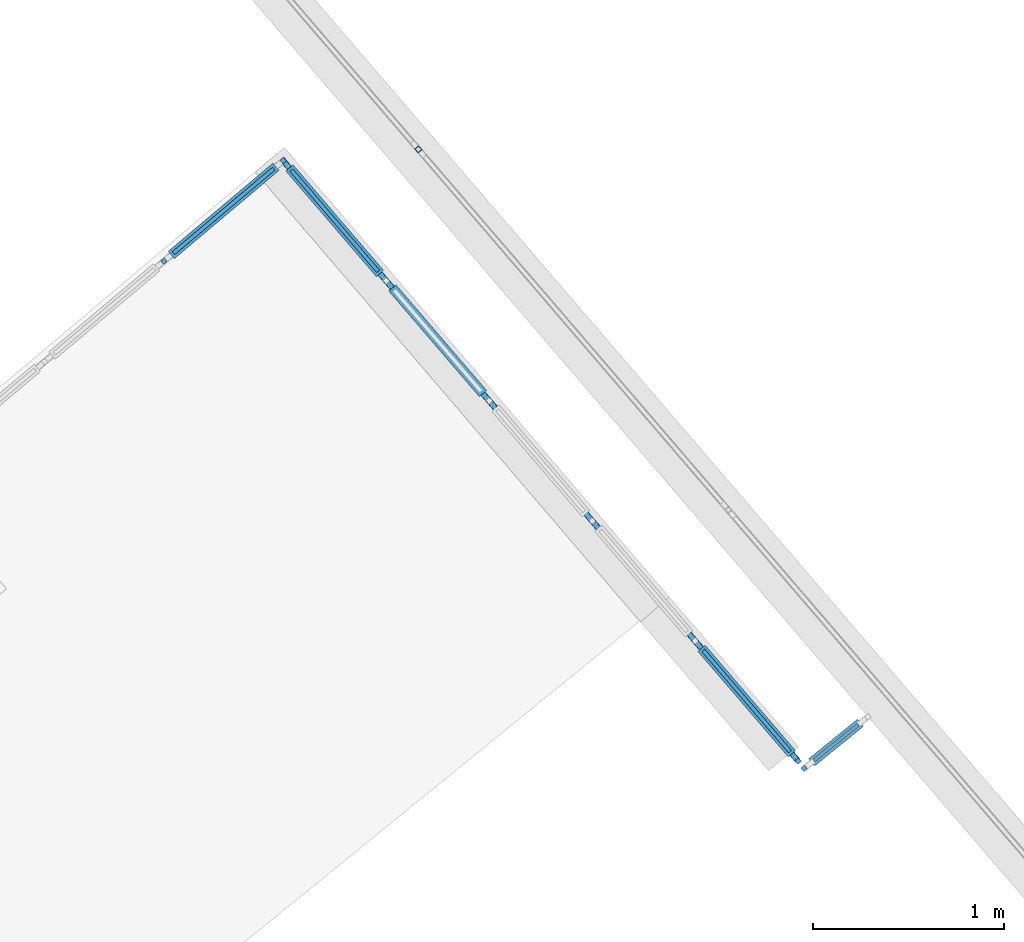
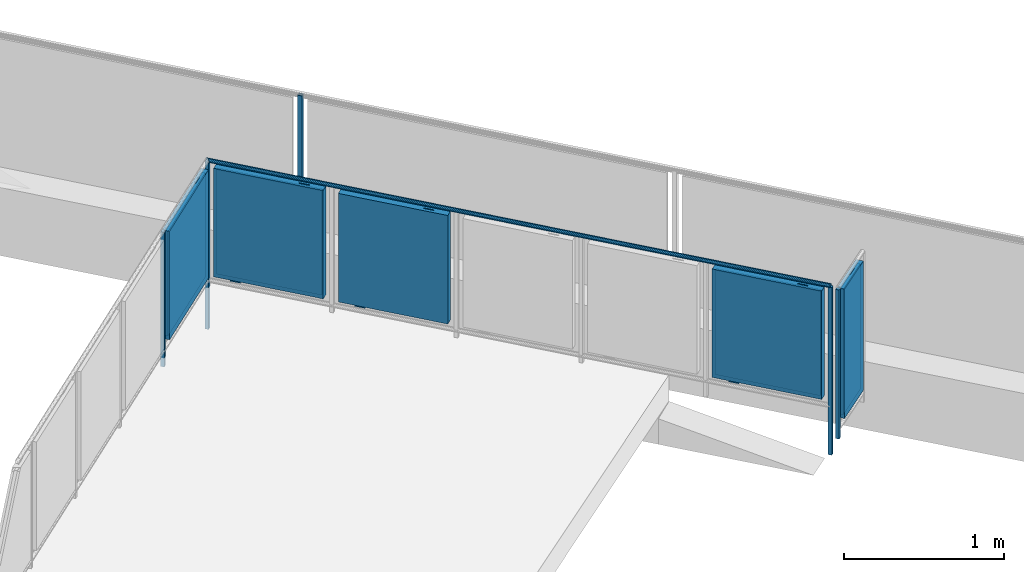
# One storey, part 50 of 75: 15 building element parts, 3 elements without a shape of their own.
"""IFC4 building model written with IfcOpenShell, lengths in metres."""

from ifc_helpers import new_model, entity, si_unit, converted_unit, derived_unit, direction, frame, origin_with_axes, place, context, subcontext, project, spatial, polygons, material, type_object, element, aggregate, save


model = new_model("IFC4")

# Units and contexts
model_context = context("Model", 3, precision=1e-05, world=origin_with_axes(), true_north=direction((0.0, 1.0)))
body_context = subcontext(model_context, "Body", "Model", "MODEL_VIEW")
ifc_project = project(units=[si_unit("LENGTHUNIT", "METRE"), si_unit("AREAUNIT", "SQUARE_METRE"), si_unit("VOLUMEUNIT", "CUBIC_METRE"), converted_unit("PLANEANGLEUNIT", "DEGREE", entity("IfcPlaneAngleMeasure", 0.0174532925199), si_unit("PLANEANGLEUNIT", "RADIAN"), dimensions=[0, 0, 0, 0, 0, 0, 0]), converted_unit("TIMEUNIT", "Year", entity("IfcTimeMeasure", 31556926.0), si_unit("TIMEUNIT", "SECOND"), dimensions=[0, 0, 1, 0, 0, 0, 0]), si_unit("MASSUNIT", "GRAM", prefix="KILO"), si_unit("THERMODYNAMICTEMPERATUREUNIT", "DEGREE_CELSIUS"), si_unit("LUMINOUSINTENSITYUNIT", "LUMEN"), si_unit("ENERGYUNIT", "JOULE", prefix="MEGA"), derived_unit("THERMALCONDUCTANCEUNIT", [(si_unit("POWERUNIT", "WATT"), 1), (si_unit("LENGTHUNIT", "METRE"), -1), (si_unit("THERMODYNAMICTEMPERATUREUNIT", "KELVIN"), -1)]), derived_unit("SPECIFICHEATCAPACITYUNIT", [(si_unit("ENERGYUNIT", "JOULE"), 1), (si_unit("MASSUNIT", "GRAM", prefix="KILO"), -1), (si_unit("THERMODYNAMICTEMPERATUREUNIT", "KELVIN"), -1)]), derived_unit("MASSDENSITYUNIT", [(si_unit("MASSUNIT", "GRAM", prefix="KILO"), 1), (si_unit("VOLUMEUNIT", "CUBIC_METRE"), -1)])], contexts=[model_context])

# Site, building, storey
site_placement = place(None, frame((-0.00153261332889, -0.00661245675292, 0.0), z_axis=(0.0, 0.0, 1.0), x_axis=(1.0, 0.0, 0.0)))
site = spatial("IfcSite", under=ifc_project, at=site_placement, Name="Gelände", CompositionType="ELEMENT")
building_placement = place(site_placement, origin_with_axes())
building = spatial("IfcBuilding", under=site, at=building_placement, Name="Gebäude", CompositionType="ELEMENT")
storey_placement = place(building_placement, frame((0.0, 0.0, -0.22), z_axis=(0.0, 0.0, 1.0), x_axis=(1.0, 0.0, 0.0)))
storey = spatial("IfcBuildingStorey", under=building, at=storey_placement, Name="EG", CompositionType="ELEMENT", Elevation=-0.22)

# Railing, building element part
railing_type = type_object("IfcRailingType", Name="Geländerart", PredefinedType="NOTDEFINED")
railing_1_placement = place(storey_placement, frame((-12.1608341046, 23.557810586, 0.523948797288), z_axis=(0.0, 0.0, 1.0), x_axis=(1.0, 0.0, 0.0)))
railing_1 = element("IfcRailing", 1, at=railing_1_placement, inside=storey, type_object=railing_type, Name="Geländer - 001", PredefinedType="NOTDEFINED")
ifc_material_1 = material(Name="Aluminium")
building_element_part_1_placement = place(railing_1_placement, origin_with_axes())
building_element_part_1 = element("IfcBuildingElementPart", 2, at=building_element_part_1_placement, material=ifc_material_1, Name="Aluminium", PredefinedType="NOTDEFINED", context=body_context, shape_type="Tessellation", body=[
    polygons([(28.8053132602, 0.231914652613, 0.0), (28.782559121, 0.212363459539, 0.0), (28.782559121, 0.212363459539, 1.06), (28.8053132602, 0.231914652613, 1.06), (28.8248644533, 0.209160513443, 0.0), (28.8021103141, 0.189609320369, 0.0), (28.8047794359, 0.224863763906, 0.0), (28.7896100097, 0.21182963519, 0.0), (28.8026441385, 0.196660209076, 0.0), (28.8178135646, 0.209694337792, 0.0), (28.8021103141, 0.189609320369, 1.06), (28.8248644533, 0.209160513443, 1.06), (28.8047794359, 0.224863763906, 1.06), (28.8178135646, 0.209694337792, 1.06), (28.8026441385, 0.196660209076, 1.06), (28.7896100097, 0.21182963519, 1.06)], [[[1, 2, 3, 4]], [[1, 5, 6, 2], [7, 8, 9, 10]], [[2, 6, 11, 3]], [[4, 3, 11, 12], [13, 14, 15, 16]], [[5, 1, 4, 12]], [[6, 5, 12, 11]], [[8, 7, 13, 16]], [[9, 8, 16, 15]], [[10, 9, 15, 14]], [[7, 10, 14, 13]]], closed=True),
])
aggregate(railing_1, [building_element_part_1])

# Space
space_placement = place(storey_placement, frame((13.4528825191, 20.3252443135, 0.0), z_axis=(0.0, 0.0, 1.0), x_axis=(-0.766923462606, -0.641738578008, 0.0)))
space = spatial("IfcSpace", under=storey, at=space_placement, CompositionType="ELEMENT", PredefinedType="NOTDEFINED")

# Railing, building element parts
railing_2_placement = place(space_placement, frame((0.00343914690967, -1.03835442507, 0.38), z_axis=(0.0, 0.0, 1.0), x_axis=(-0.766923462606, 0.641738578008, 0.0)))
railing_2 = element("IfcRailing", 3, at=railing_2_placement, inside=space, type_object=railing_type, Name="Geländer - 001", PredefinedType="NOTDEFINED")
building_element_part_2_placement = place(railing_2_placement, origin_with_axes())
building_element_part_2 = element("IfcBuildingElementPart", 4, at=building_element_part_2_placement, material=ifc_material_1, Name="Aluminium", PredefinedType="NOTDEFINED", context=body_context, shape_type="Tessellation", body=[
    polygons([(3.16945391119, 2.58828020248, -0.3), (3.15334703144, 2.60740004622, -0.3), (3.15334703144, 2.60740004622, 0.98), (3.16945391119, 2.58828020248, 0.98), (3.15033406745, 2.57217332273, -0.3), (3.1342271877, 2.59129316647, -0.3), (3.1342271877, 2.59129316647, 0.98), (3.15033406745, 2.57217332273, 0.98)], [[[1, 2, 3, 4]], [[1, 5, 6, 2]], [[2, 6, 7, 3]], [[4, 3, 7, 8]], [[5, 1, 4, 8]], [[6, 5, 8, 7]]], closed=True),
])
building_element_part_3_placement = place(railing_2_placement, origin_with_axes())
building_element_part_3 = element("IfcBuildingElementPart", 5, at=building_element_part_3_placement, material=ifc_material_1, Name="Aluminium", PredefinedType="NOTDEFINED", context=body_context, shape_type="Tessellation", body=[
    polygons([(5.84400037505, -0.568070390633, -0.3), (5.86297616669, -0.551794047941, -0.3), (5.86297616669, -0.551794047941, 0.98), (5.84400037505, -0.568070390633, 0.98), (5.82772403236, -0.549094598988, -0.3), (5.846699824, -0.532818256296, -0.3), (5.846699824, -0.532818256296, 0.98), (5.82772403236, -0.549094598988, 0.98)], [[[1, 2, 3, 4]], [[1, 5, 6, 2]], [[2, 6, 7, 3]], [[4, 3, 7, 8]], [[5, 1, 4, 8]], [[6, 5, 8, 7]]], closed=True),
])
building_element_part_4_placement = place(railing_2_placement, origin_with_axes())
building_element_part_4 = element("IfcBuildingElementPart", 6, at=building_element_part_4_placement, material=ifc_material_1, Name="Aluminium", PredefinedType="NOTDEFINED", context=body_context, shape_type="Tessellation", body=[
    polygons([(2.5455285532, 2.06267492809, -0.05), (2.52942167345, 2.08179477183, -0.05), (2.52942167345, 2.08179477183, 0.98), (2.5455285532, 2.06267492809, 0.98), (2.52640870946, 2.04656804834, -0.05), (2.51030182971, 2.06568789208, -0.05), (2.51030182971, 2.06568789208, 0.98), (2.52640870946, 2.04656804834, 0.98)], [[[1, 2, 3, 4]], [[1, 5, 6, 2]], [[2, 6, 7, 3]], [[4, 3, 7, 8]], [[5, 1, 4, 8]], [[6, 5, 8, 7]]], closed=True),
])
ifc_material_2 = material(Name="Profilit")
building_element_part_5_placement = place(railing_2_placement, origin_with_axes())
building_element_part_5 = element("IfcBuildingElementPart", 7, at=building_element_part_5_placement, material=ifc_material_2, Name="Profilit", PredefinedType="NOTDEFINED", context=body_context, shape_type="Tessellation", body=[
    polygons([(3.09568620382, 2.55555673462, 0.135), (2.57118403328, 2.11370723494, 0.135), (2.57118403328, 2.11370723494, 0.935), (3.09568620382, 2.55555673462, 0.935), (2.58406953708, 2.09841135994, 0.135), (3.10857170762, 2.54026085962, 0.135), (2.58406953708, 2.09841135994, 0.935), (3.10857170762, 2.54026085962, 0.935)], [[[1, 2, 3, 4]], [[5, 2, 1, 6]], [[7, 3, 2, 5]], [[4, 3, 7, 8]], [[1, 4, 8, 6]], [[7, 5, 6, 8]]], closed=True),
])
building_element_part_6_placement = place(railing_2_placement, origin_with_axes())
building_element_part_6 = element("IfcBuildingElementPart", 8, at=building_element_part_6_placement, material=ifc_material_1, Name="Aluminium", PredefinedType="NOTDEFINED", context=body_context, shape_type="Tessellation", body=[
    polygons([(2.64102356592, 2.16273467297, 0.12), (2.69455912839, 2.20783393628, 0.12), (2.69455912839, 2.20783393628, 0.095), (2.64102356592, 2.16273467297, 0.095), (2.64424494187, 2.15891070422, 0.12), (2.69778050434, 2.20400996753, 0.12), (2.69778050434, 2.20400996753, 0.095), (2.64424494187, 2.15891070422, 0.095)], [[[1, 2, 3, 4]], [[5, 6, 2, 1]], [[2, 6, 7, 3]], [[4, 3, 7, 8]], [[1, 4, 8, 5]], [[8, 7, 6, 5]]], closed=True),
    polygons([(3.03551079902, 2.49505739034, 0.95), (2.98197523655, 2.44995812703, 0.95), (2.98197523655, 2.44995812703, 0.955), (3.03551079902, 2.49505739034, 0.955), (3.03873217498, 2.49123342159, 0.95), (2.9851966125, 2.44613415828, 0.95), (2.9851966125, 2.44613415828, 0.955), (3.03873217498, 2.49123342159, 0.955)], [[[1, 2, 3, 4]], [[5, 6, 2, 1]], [[2, 6, 7, 3]], [[4, 3, 7, 8]], [[1, 4, 8, 5]], [[8, 7, 6, 5]]], closed=True),
    polygons([(2.58226175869, 2.07727532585, 0.12), (2.55004799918, 2.11551501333, 0.12), (3.09749398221, 2.57669276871, 0.12), (3.12970774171, 2.53845308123, 0.12), (2.59755763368, 2.09016082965, 0.14), (2.58789350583, 2.10163273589, 0.14), (2.58406953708, 2.09841135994, 0.135), (2.57118403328, 2.11370723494, 0.135), (2.57500800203, 2.11692861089, 0.14), (2.56534387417, 2.12840051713, 0.14), (3.08219810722, 2.56380726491, 0.14), (3.08219810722, 2.56380726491, 0.93), (2.56534387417, 2.12840051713, 0.93), (2.56534387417, 2.12840051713, 0.14), (2.55004799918, 2.11551501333, 0.12), (2.55004799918, 2.11551501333, 0.95), (3.09749398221, 2.57669276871, 0.95), (3.12970774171, 2.53845308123, 0.95), (2.58226175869, 2.07727532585, 0.95), (2.58226175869, 2.07727532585, 0.12), (2.59755763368, 2.09016082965, 0.14), (2.59755763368, 2.09016082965, 0.93), (3.11441186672, 2.52556757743, 0.93), (3.11441186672, 2.52556757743, 0.14), (3.10474773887, 2.53703948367, 0.14), (3.10474773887, 2.53703948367, 0.93), (2.58789350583, 2.10163273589, 0.93), (2.58789350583, 2.10163273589, 0.14), (2.58406953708, 2.09841135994, 0.135), (2.58406953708, 2.09841135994, 0.935), (3.10857170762, 2.54026085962, 0.935), (3.10857170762, 2.54026085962, 0.135), (3.09568620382, 2.55555673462, 0.135), (3.09568620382, 2.55555673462, 0.935), (2.57118403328, 2.11370723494, 0.935), (2.57118403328, 2.11370723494, 0.135), (2.57500800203, 2.11692861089, 0.14), (2.57500800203, 2.11692861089, 0.93), (3.09186223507, 2.55233535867, 0.93), (3.09186223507, 2.55233535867, 0.14)], [[[1, 2, 3, 4]], [[1, 5, 6, 7, 8, 9, 10, 2]], [[2, 10, 11, 12, 13, 14, 15, 16, 17, 3]], [[4, 3, 17, 18]], [[5, 1, 4, 18, 19, 20, 21, 22, 23, 24]], [[6, 5, 24, 25]], [[7, 6, 25, 26, 27, 28, 29, 30, 31, 32]], [[8, 7, 32, 33]], [[9, 8, 33, 34, 35, 36, 37, 38, 39, 40]], [[10, 9, 40, 11]], [[11, 40, 39, 12]], [[12, 39, 38, 13]], [[13, 38, 37, 14]], [[20, 15, 14, 37, 36, 29, 28, 21]], [[19, 16, 15, 20]], [[18, 17, 16, 19]], [[27, 22, 21, 28]], [[26, 23, 22, 27]], [[25, 24, 23, 26]], [[35, 30, 29, 36]], [[34, 31, 30, 35]], [[33, 32, 31, 34]]], closed=True),
])
building_element_part_7_placement = place(railing_2_placement, origin_with_axes())
building_element_part_7 = element("IfcBuildingElementPart", 9, at=building_element_part_7_placement, material=ifc_material_1, Name="Aluminium", PredefinedType="NOTDEFINED", context=body_context, shape_type="Tessellation", body=[
    polygons([(3.15354671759, 2.61083712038, 0.985), (3.15352079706, 2.61051731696, 0.987604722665), (5.85656260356, -0.54082688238, 0.987604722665), (5.85673557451, -0.54067851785, 0.985), (3.15352079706, 2.61051731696, 0.982395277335), (3.15344382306, 2.60956762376, 0.97986969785), (3.1533181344, 2.60801689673, 0.9775), (3.15314755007, 2.60591225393, 0.975358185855), (3.15293725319, 2.60331764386, 0.973509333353), (3.15269363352, 2.60031190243, 0.972009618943), (3.15242409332, 2.59698635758, 0.970904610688), (3.15213682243, 2.59344205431, 0.970227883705), (3.15184054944, 2.58978668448, 0.97), (3.15154427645, 2.58613131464, 0.970227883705), (3.15125700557, 2.58258701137, 0.970904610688), (3.15098746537, 2.57926146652, 0.972009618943), (3.15074384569, 2.57625572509, 0.973509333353), (3.15053354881, 2.57366111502, 0.975358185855), (3.15036296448, 2.57155647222, 0.9775), (3.15023727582, 2.57000574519, 0.97986969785), (3.15016030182, 2.56905605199, 0.982395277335), (3.15013438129, 2.56873624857, 0.985), (3.15016030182, 2.56905605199, 0.987604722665), (3.15023727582, 2.57000574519, 0.99013030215), (3.15036296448, 2.57155647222, 0.9925), (3.15053354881, 2.57366111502, 0.994641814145), (3.15074384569, 2.57625572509, 0.996490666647), (3.15098746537, 2.57926146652, 0.997990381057), (3.15125700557, 2.58258701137, 0.999095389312), (3.15154427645, 2.58613131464, 0.999772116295), (3.15184054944, 2.58978668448, 1.0), (3.15213682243, 2.59344205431, 0.999772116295), (3.15242409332, 2.59698635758, 0.999095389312), (3.15269363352, 2.60031190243, 0.997990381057), (3.15293725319, 2.60331764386, 0.996490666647), (3.15314755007, 2.60591225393, 0.994641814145), (3.1533181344, 2.60801689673, 0.9925), (3.15344382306, 2.60956762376, 0.99013030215), (5.85604894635, -0.541267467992, 0.99013030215), (5.8552102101, -0.541986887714, 0.9925), (5.85407187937, -0.542963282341, 0.994641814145), (5.85266854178, -0.544166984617, 0.996490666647), (5.85104283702, -0.545561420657, 0.997990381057), (5.84924416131, -0.547104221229, 0.999095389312), (5.84732716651, -0.548748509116, 0.999772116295), (5.84535009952, -0.550444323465, 1.0), (5.84337303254, -0.552140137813, 0.999772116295), (5.84145603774, -0.553784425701, 0.999095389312), (5.83965736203, -0.555327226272, 0.997990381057), (5.83803165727, -0.556721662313, 0.996490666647), (5.83662831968, -0.557925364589, 0.994641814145), (5.83548998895, -0.558901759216, 0.9925), (5.83465125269, -0.559621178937, 0.99013030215), (5.83413759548, -0.560061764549, 0.987604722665), (5.83396462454, -0.56021012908, 0.985), (5.83413759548, -0.560061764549, 0.982395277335), (5.83465125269, -0.559621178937, 0.97986969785), (5.83548998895, -0.558901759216, 0.9775), (5.83662831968, -0.557925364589, 0.975358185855), (5.83803165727, -0.556721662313, 0.973509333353), (5.83965736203, -0.555327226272, 0.972009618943), (5.84145603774, -0.553784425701, 0.970904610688), (5.84337303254, -0.552140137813, 0.970227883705), (5.84535009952, -0.550444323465, 0.97), (5.84732716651, -0.548748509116, 0.970227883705), (5.84924416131, -0.547104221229, 0.970904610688), (5.85104283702, -0.545561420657, 0.972009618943), (5.85266854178, -0.544166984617, 0.973509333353), (5.85407187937, -0.542963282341, 0.975358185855), (5.8552102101, -0.541986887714, 0.9775), (5.85604894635, -0.541267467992, 0.97986969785), (5.85656260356, -0.54082688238, 0.982395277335)], [[[1, 2, 3, 4]], [[1, 5, 6, 7, 8, 9, 10, 11, 12, 13, 14, 15, 16, 17, 18, 19, 20, 21, 22, 23, 24, 25, 26, 27, 28, 29, 30, 31, 32, 33, 34, 35, 36, 37, 38, 2]], [[2, 38, 39, 3]], [[4, 3, 39, 40, 41, 42, 43, 44, 45, 46, 47, 48, 49, 50, 51, 52, 53, 54, 55, 56, 57, 58, 59, 60, 61, 62, 63, 64, 65, 66, 67, 68, 69, 70, 71, 72]], [[5, 1, 4, 72]], [[6, 5, 72, 71]], [[7, 6, 71, 70]], [[8, 7, 70, 69]], [[9, 8, 69, 68]], [[10, 9, 68, 67]], [[11, 10, 67, 66]], [[12, 11, 66, 65]], [[13, 12, 65, 64]], [[14, 13, 64, 63]], [[15, 14, 63, 62]], [[16, 15, 62, 61]], [[17, 16, 61, 60]], [[18, 17, 60, 59]], [[19, 18, 59, 58]], [[20, 19, 58, 57]], [[21, 20, 57, 56]], [[22, 21, 56, 55]], [[23, 22, 55, 54]], [[24, 23, 54, 53]], [[25, 24, 53, 52]], [[26, 25, 52, 51]], [[27, 26, 51, 50]], [[28, 27, 50, 49]], [[29, 28, 49, 48]], [[30, 29, 48, 47]], [[31, 30, 47, 46]], [[32, 31, 46, 45]], [[33, 32, 45, 44]], [[34, 33, 44, 43]], [[35, 34, 43, 42]], [[36, 35, 42, 41]], [[37, 36, 41, 40]], [[38, 37, 40, 39]]], closed=True),
])
building_element_part_8_placement = place(railing_2_placement, origin_with_axes())
building_element_part_8 = element("IfcBuildingElementPart", 10, at=building_element_part_8_placement, material=ifc_material_2, Name="Profilit", PredefinedType="NOTDEFINED", context=body_context, shape_type="Tessellation", body=[
    polygons([(3.65581428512, 2.01758807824, 0.135), (3.2017493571, 2.54696016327, 0.135), (3.2017493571, 2.54696016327, 0.935), (3.65581428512, 2.01758807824, 0.935), (3.18656872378, 2.53393908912, 0.135), (3.6406336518, 2.00456700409, 0.135), (3.18656872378, 2.53393908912, 0.935), (3.6406336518, 2.00456700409, 0.935)], [[[1, 2, 3, 4]], [[5, 2, 1, 6]], [[7, 3, 2, 5]], [[4, 3, 7, 8]], [[1, 4, 8, 6]], [[7, 5, 6, 8]]], closed=True),
])
building_element_part_9_placement = place(railing_2_placement, origin_with_axes())
building_element_part_9 = element("IfcBuildingElementPart", 11, at=building_element_part_9_placement, material=ifc_material_1, Name="Aluminium", PredefinedType="NOTDEFINED", context=body_context, shape_type="Tessellation", body=[
    polygons([(3.25139618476, 2.47755956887, 0.12), (3.2969699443, 2.42442735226, 0.12), (3.2969699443, 2.42442735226, 0.095), (3.25139618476, 2.47755956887, 0.095), (3.24760102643, 2.47430430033, 0.12), (3.29317478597, 2.42117208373, 0.12), (3.29317478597, 2.42117208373, 0.095), (3.24760102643, 2.47430430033, 0.095)], [[[1, 2, 3, 4]], [[5, 6, 2, 1]], [[2, 6, 7, 3]], [[4, 3, 7, 8]], [[1, 4, 8, 5]], [[8, 7, 6, 5]]], closed=True),
    polygons([(3.59478198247, 2.07722286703, 0.95), (3.54920822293, 2.13035508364, 0.95), (3.54920822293, 2.13035508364, 0.955), (3.59478198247, 2.07722286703, 0.955), (3.59098682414, 2.07396759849, 0.95), (3.5454130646, 2.1270998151, 0.95), (3.5454130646, 2.1270998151, 0.955), (3.59098682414, 2.07396759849, 0.955)], [[[1, 2, 3, 4]], [[5, 6, 2, 1]], [[2, 6, 7, 3]], [[4, 3, 7, 8]], [[1, 4, 8, 5]], [[8, 7, 6, 5]]], closed=True),
    polygons([(3.16541744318, 2.53555875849, 0.12), (3.20336902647, 2.56811144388, 0.12), (3.67696556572, 2.01596840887, 0.12), (3.63901398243, 1.98341572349, 0.12), (3.17843851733, 2.52037812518, 0.14), (3.18982399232, 2.53014393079, 0.14), (3.18656872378, 2.53393908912, 0.135), (3.2017493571, 2.54696016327, 0.135), (3.20500462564, 2.54316500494, 0.14), (3.21639010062, 2.55293081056, 0.14), (3.66394449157, 2.03114904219, 0.14), (3.66394449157, 2.03114904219, 0.93), (3.21639010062, 2.55293081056, 0.93), (3.21639010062, 2.55293081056, 0.14), (3.20336902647, 2.56811144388, 0.12), (3.20336902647, 2.56811144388, 0.95), (3.67696556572, 2.01596840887, 0.95), (3.63901398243, 1.98341572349, 0.95), (3.16541744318, 2.53555875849, 0.95), (3.16541744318, 2.53555875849, 0.12), (3.17843851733, 2.52037812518, 0.14), (3.17843851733, 2.52037812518, 0.93), (3.62599290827, 1.9985963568, 0.93), (3.62599290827, 1.9985963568, 0.14), (3.63737838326, 2.00836216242, 0.14), (3.63737838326, 2.00836216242, 0.93), (3.18982399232, 2.53014393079, 0.93), (3.18982399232, 2.53014393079, 0.14), (3.18656872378, 2.53393908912, 0.135), (3.18656872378, 2.53393908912, 0.935), (3.6406336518, 2.00456700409, 0.935), (3.6406336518, 2.00456700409, 0.135), (3.65581428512, 2.01758807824, 0.135), (3.65581428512, 2.01758807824, 0.935), (3.2017493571, 2.54696016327, 0.935), (3.2017493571, 2.54696016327, 0.135), (3.20500462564, 2.54316500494, 0.14), (3.20500462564, 2.54316500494, 0.93), (3.65255901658, 2.02138323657, 0.93), (3.65255901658, 2.02138323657, 0.14)], [[[1, 2, 3, 4]], [[1, 5, 6, 7, 8, 9, 10, 2]], [[2, 10, 11, 12, 13, 14, 15, 16, 17, 3]], [[4, 3, 17, 18]], [[5, 1, 4, 18, 19, 20, 21, 22, 23, 24]], [[6, 5, 24, 25]], [[7, 6, 25, 26, 27, 28, 29, 30, 31, 32]], [[8, 7, 32, 33]], [[9, 8, 33, 34, 35, 36, 37, 38, 39, 40]], [[10, 9, 40, 11]], [[11, 40, 39, 12]], [[12, 39, 38, 13]], [[13, 38, 37, 14]], [[20, 15, 14, 37, 36, 29, 28, 21]], [[19, 16, 15, 20]], [[18, 17, 16, 19]], [[27, 22, 21, 28]], [[26, 23, 22, 27]], [[25, 24, 23, 26]], [[35, 30, 29, 36]], [[34, 31, 30, 35]], [[33, 32, 31, 34]]], closed=True),
])
building_element_part_10_placement = place(railing_2_placement, origin_with_axes())
building_element_part_10 = element("IfcBuildingElementPart", 12, at=building_element_part_10_placement, material=ifc_material_1, Name="Aluminium", PredefinedType="NOTDEFINED", context=body_context, shape_type="Tessellation", body=[
    polygons([(3.79009809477, 1.84951336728, 0.12), (3.83567185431, 1.79638115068, 0.12), (3.83567185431, 1.79638115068, 0.095), (3.79009809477, 1.84951336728, 0.095), (3.78630293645, 1.84625809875, 0.12), (3.83187669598, 1.79312588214, 0.12), (3.83187669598, 1.79312588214, 0.095), (3.78630293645, 1.84625809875, 0.095)], [[[1, 2, 3, 4]], [[5, 6, 2, 1]], [[2, 6, 7, 3]], [[4, 3, 7, 8]], [[1, 4, 8, 5]], [[8, 7, 6, 5]]], closed=True),
    polygons([(4.13348389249, 1.44917666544, 0.95), (4.08791013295, 1.50230888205, 0.95), (4.08791013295, 1.50230888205, 0.955), (4.13348389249, 1.44917666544, 0.955), (4.12968873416, 1.4459213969, 0.95), (4.08411497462, 1.49905361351, 0.95), (4.08411497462, 1.49905361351, 0.955), (4.12968873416, 1.4459213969, 0.955)], [[[1, 2, 3, 4]], [[5, 6, 2, 1]], [[2, 6, 7, 3]], [[4, 3, 7, 8]], [[1, 4, 8, 5]], [[8, 7, 6, 5]]], closed=True),
    polygons([(3.7041193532, 1.9075125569, 0.12), (3.74207093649, 1.94006524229, 0.12), (4.21566747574, 1.38792220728, 0.12), (4.17771589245, 1.3553695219, 0.12), (3.71714042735, 1.89233192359, 0.14), (3.72852590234, 1.9020977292, 0.14), (3.7252706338, 1.90589288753, 0.135), (3.74045126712, 1.91891396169, 0.135), (3.74370653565, 1.91511880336, 0.14), (3.75509201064, 1.92488460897, 0.14), (4.20264640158, 1.4031028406, 0.14), (4.20264640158, 1.4031028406, 0.93), (3.75509201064, 1.92488460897, 0.93), (3.75509201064, 1.92488460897, 0.14), (3.74207093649, 1.94006524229, 0.12), (3.74207093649, 1.94006524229, 0.95), (4.21566747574, 1.38792220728, 0.95), (4.17771589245, 1.3553695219, 0.95), (3.7041193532, 1.9075125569, 0.95), (3.7041193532, 1.9075125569, 0.12), (3.71714042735, 1.89233192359, 0.14), (3.71714042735, 1.89233192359, 0.93), (4.16469481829, 1.37055015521, 0.93), (4.16469481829, 1.37055015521, 0.14), (4.17608029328, 1.38031596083, 0.14), (4.17608029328, 1.38031596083, 0.93), (3.72852590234, 1.9020977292, 0.93), (3.72852590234, 1.9020977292, 0.14), (3.7252706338, 1.90589288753, 0.135), (3.7252706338, 1.90589288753, 0.935), (4.17933556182, 1.3765208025, 0.935), (4.17933556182, 1.3765208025, 0.135), (4.19451619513, 1.38954187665, 0.135), (4.19451619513, 1.38954187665, 0.935), (3.74045126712, 1.91891396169, 0.935), (3.74045126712, 1.91891396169, 0.135), (3.74370653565, 1.91511880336, 0.14), (3.74370653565, 1.91511880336, 0.93), (4.1912609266, 1.39333703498, 0.93), (4.1912609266, 1.39333703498, 0.14)], [[[1, 2, 3, 4]], [[1, 5, 6, 7, 8, 9, 10, 2]], [[2, 10, 11, 12, 13, 14, 15, 16, 17, 3]], [[4, 3, 17, 18]], [[5, 1, 4, 18, 19, 20, 21, 22, 23, 24]], [[6, 5, 24, 25]], [[7, 6, 25, 26, 27, 28, 29, 30, 31, 32]], [[8, 7, 32, 33]], [[9, 8, 33, 34, 35, 36, 37, 38, 39, 40]], [[10, 9, 40, 11]], [[11, 40, 39, 12]], [[12, 39, 38, 13]], [[13, 38, 37, 14]], [[20, 15, 14, 37, 36, 29, 28, 21]], [[19, 16, 15, 20]], [[18, 17, 16, 19]], [[27, 22, 21, 28]], [[26, 23, 22, 27]], [[25, 24, 23, 26]], [[35, 30, 29, 36]], [[34, 31, 30, 35]], [[33, 32, 31, 34]]], closed=True),
])
building_element_part_11_placement = place(railing_2_placement, origin_with_axes())
building_element_part_11 = element("IfcBuildingElementPart", 13, at=building_element_part_11_placement, material=ifc_material_2, Name="Profilit", PredefinedType="NOTDEFINED", context=body_context, shape_type="Tessellation", body=[
    polygons([(5.81062192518, -0.49459672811, 0.135), (5.35655699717, 0.0347753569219, 0.135), (5.35655699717, 0.0347753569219, 0.935), (5.81062192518, -0.49459672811, 0.935), (5.34137636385, 0.0217542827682, 0.135), (5.79544129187, -0.507617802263, 0.135), (5.34137636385, 0.0217542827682, 0.935), (5.79544129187, -0.507617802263, 0.935)], [[[1, 2, 3, 4]], [[5, 2, 1, 6]], [[7, 3, 2, 5]], [[4, 3, 7, 8]], [[1, 4, 8, 6]], [[7, 5, 6, 8]]], closed=True),
])
building_element_part_12_placement = place(railing_2_placement, origin_with_axes())
building_element_part_12 = element("IfcBuildingElementPart", 14, at=building_element_part_12_placement, material=ifc_material_1, Name="Aluminium", PredefinedType="NOTDEFINED", context=body_context, shape_type="Tessellation", body=[
    polygons([(5.40620382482, -0.0346252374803, 0.12), (5.45177758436, -0.0877574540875, 0.12), (5.45177758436, -0.0877574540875, 0.095), (5.40620382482, -0.0346252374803, 0.095), (5.4024086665, -0.0378805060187, 0.12), (5.44798242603, -0.0910127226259, 0.12), (5.44798242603, -0.0910127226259, 0.095), (5.4024086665, -0.0378805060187, 0.095)], [[[1, 2, 3, 4]], [[5, 6, 2, 1]], [[2, 6, 7, 3]], [[4, 3, 7, 8]], [[1, 4, 8, 5]], [[8, 7, 6, 5]]], closed=True),
    polygons([(5.74958962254, -0.434961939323, 0.95), (5.704015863, -0.381829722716, 0.95), (5.704015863, -0.381829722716, 0.955), (5.74958962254, -0.434961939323, 0.955), (5.74579446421, -0.438217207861, 0.95), (5.70022070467, -0.385084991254, 0.95), (5.70022070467, -0.385084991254, 0.955), (5.74579446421, -0.438217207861, 0.955)], [[[1, 2, 3, 4]], [[5, 6, 2, 1]], [[2, 6, 7, 3]], [[4, 3, 7, 8]], [[1, 4, 8, 5]], [[8, 7, 6, 5]]], closed=True),
    polygons([(5.32022508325, 0.0233739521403, 0.12), (5.35817666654, 0.0559266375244, 0.12), (5.83177320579, -0.496216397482, 0.12), (5.79382162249, -0.528769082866, 0.12), (5.3332461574, 0.00819331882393, 0.14), (5.34463163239, 0.0179591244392, 0.14), (5.34137636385, 0.0217542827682, 0.135), (5.35655699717, 0.0347753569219, 0.135), (5.3598122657, 0.0309801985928, 0.14), (5.37119774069, 0.040746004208, 0.14), (5.81875213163, -0.481035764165, 0.14), (5.81875213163, -0.481035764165, 0.93), (5.37119774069, 0.040746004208, 0.93), (5.37119774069, 0.040746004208, 0.14), (5.35817666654, 0.0559266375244, 0.12), (5.35817666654, 0.0559266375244, 0.95), (5.83177320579, -0.496216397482, 0.95), (5.79382162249, -0.528769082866, 0.95), (5.32022508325, 0.0233739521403, 0.95), (5.32022508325, 0.0233739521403, 0.12), (5.3332461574, 0.00819331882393, 0.14), (5.3332461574, 0.00819331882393, 0.93), (5.78080054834, -0.51358844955, 0.93), (5.78080054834, -0.51358844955, 0.14), (5.79218602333, -0.503822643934, 0.14), (5.79218602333, -0.503822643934, 0.93), (5.34463163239, 0.0179591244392, 0.93), (5.34463163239, 0.0179591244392, 0.14), (5.34137636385, 0.0217542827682, 0.135), (5.34137636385, 0.0217542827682, 0.935), (5.79544129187, -0.507617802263, 0.935), (5.79544129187, -0.507617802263, 0.135), (5.81062192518, -0.49459672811, 0.135), (5.81062192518, -0.49459672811, 0.935), (5.35655699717, 0.0347753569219, 0.935), (5.35655699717, 0.0347753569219, 0.135), (5.3598122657, 0.0309801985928, 0.14), (5.3598122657, 0.0309801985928, 0.93), (5.80736665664, -0.490801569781, 0.93), (5.80736665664, -0.490801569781, 0.14)], [[[1, 2, 3, 4]], [[1, 5, 6, 7, 8, 9, 10, 2]], [[2, 10, 11, 12, 13, 14, 15, 16, 17, 3]], [[4, 3, 17, 18]], [[5, 1, 4, 18, 19, 20, 21, 22, 23, 24]], [[6, 5, 24, 25]], [[7, 6, 25, 26, 27, 28, 29, 30, 31, 32]], [[8, 7, 32, 33]], [[9, 8, 33, 34, 35, 36, 37, 38, 39, 40]], [[10, 9, 40, 11]], [[11, 40, 39, 12]], [[12, 39, 38, 13]], [[13, 38, 37, 14]], [[20, 15, 14, 37, 36, 29, 28, 21]], [[19, 16, 15, 20]], [[18, 17, 16, 19]], [[27, 22, 21, 28]], [[26, 23, 22, 27]], [[25, 24, 23, 26]], [[35, 30, 29, 36]], [[34, 31, 30, 35]], [[33, 32, 31, 34]]], closed=True),
])
aggregate(railing_2, [building_element_part_2, building_element_part_3, building_element_part_4, building_element_part_5, building_element_part_6, building_element_part_7, building_element_part_8, building_element_part_9, building_element_part_10, building_element_part_11, building_element_part_12])

railing_3_placement = place(storey_placement, frame((18.629242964, 20.5689313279, 0.215679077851), z_axis=(0.0, 0.0, 1.0), x_axis=(1.0, 0.0, 0.0)))
railing_3 = element("IfcRailing", 15, at=railing_3_placement, inside=storey, type_object=railing_type, Name="Geländer - 001", PredefinedType="NOTDEFINED")
building_element_part_13_placement = place(railing_3_placement, origin_with_axes())
building_element_part_13 = element("IfcBuildingElementPart", 16, at=building_element_part_13_placement, material=ifc_material_1, Name="Aluminium", PredefinedType="NOTDEFINED", context=body_context, shape_type="Tessellation", body=[
    polygons([(0.0490651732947, -0.0406830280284, 0.0), (0.0333234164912, -0.0212614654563, 0.0), (0.0333234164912, -0.0212614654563, 1.14), (0.0490651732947, -0.0406830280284, 1.14), (0.0296436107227, -0.0564247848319, 0.0), (0.0139018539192, -0.0370032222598, 0.0), (0.0139018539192, -0.0370032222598, 1.14), (0.0296436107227, -0.0564247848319, 1.14)], [[[1, 2, 3, 4]], [[1, 5, 6, 2]], [[2, 6, 7, 3]], [[4, 3, 7, 8]], [[5, 1, 4, 8]], [[6, 5, 8, 7]]], closed=True),
])
building_element_part_14_placement = place(railing_3_placement, origin_with_axes())
building_element_part_14 = element("IfcBuildingElementPart", 17, at=building_element_part_14_placement, material=ifc_material_2, Name="Profilit", PredefinedType="NOTDEFINED", context=body_context, shape_type="Tessellation", body=[
    polygons([(0.307811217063, 0.198001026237, 0.135), (0.0756828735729, 0.00985406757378, 0.135), (0.0756828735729, 0.00985406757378, 1.095), (0.307811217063, 0.198001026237, 1.095), (0.0882762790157, -0.00568318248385, 0.135), (0.320404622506, 0.182463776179, 0.135), (0.0882762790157, -0.00568318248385, 1.095), (0.320404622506, 0.182463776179, 1.095)], [[[1, 2, 3, 4]], [[5, 2, 1, 6]], [[7, 3, 2, 5]], [[4, 3, 7, 8]], [[1, 4, 8, 6]], [[7, 5, 6, 8]]], closed=True),
])
building_element_part_15_placement = place(railing_3_placement, origin_with_axes())
building_element_part_15 = element("IfcBuildingElementPart", 18, at=building_element_part_15_placement, material=ifc_material_1, Name="Aluminium", PredefinedType="NOTDEFINED", context=body_context, shape_type="Tessellation", body=[
    polygons([(0.146438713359, 0.057549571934, 0.12), (0.200819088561, 0.101626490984, 0.12), (0.200819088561, 0.101626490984, 0.095), (0.146438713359, 0.057549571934, 0.095), (0.14958706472, 0.0536652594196, 0.12), (0.203967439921, 0.0977421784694, 0.12), (0.203967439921, 0.0977421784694, 0.095), (0.14958706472, 0.0536652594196, 0.095)], [[[1, 2, 3, 4]], [[5, 6, 2, 1]], [[2, 6, 7, 3]], [[4, 3, 7, 8]], [[1, 4, 8, 5]], [[8, 7, 6, 5]]], closed=True),
    polygons([(0.246500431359, 0.138652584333, 1.11), (0.192120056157, 0.0945756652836, 1.11), (0.192120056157, 0.0945756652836, 1.115), (0.246500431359, 0.138652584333, 1.115), (0.24964878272, 0.134768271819, 1.11), (0.195268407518, 0.0906913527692, 1.11), (0.195268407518, 0.0906913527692, 1.115), (0.24964878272, 0.134768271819, 1.115)], [[[1, 2, 3, 4]], [[5, 6, 2, 1]], [[2, 6, 7, 3]], [[4, 3, 7, 8]], [[1, 4, 8, 5]], [[8, 7, 6, 5]]], closed=True),
    polygons([(0.0860683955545, -0.0267811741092, 0.12), (0.0545848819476, 0.0120619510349, 0.12), (0.310019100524, 0.219099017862, 0.12), (0.341502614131, 0.180255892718, 0.12), (0.101605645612, -0.0141877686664, 0.14), (0.0921605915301, -0.00253483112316, 0.14), (0.0882762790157, -0.00568318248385, 0.135), (0.0756828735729, 0.00985406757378, 0.135), (0.0795671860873, 0.0130024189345, 0.14), (0.0701221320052, 0.0246553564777, 0.14), (0.294481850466, 0.206505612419, 0.14), (0.294481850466, 0.206505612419, 1.09), (0.0701221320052, 0.0246553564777, 1.09), (0.0701221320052, 0.0246553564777, 0.14), (0.0545848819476, 0.0120619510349, 0.12), (0.0545848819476, 0.0120619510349, 1.11), (0.310019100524, 0.219099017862, 1.11), (0.341502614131, 0.180255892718, 1.11), (0.0860683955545, -0.0267811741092, 1.11), (0.0860683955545, -0.0267811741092, 0.12), (0.101605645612, -0.0141877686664, 0.14), (0.101605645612, -0.0141877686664, 1.09), (0.325965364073, 0.167662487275, 1.09), (0.325965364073, 0.167662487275, 0.14), (0.316520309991, 0.179315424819, 0.14), (0.316520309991, 0.179315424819, 1.09), (0.0921605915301, -0.00253483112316, 1.09), (0.0921605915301, -0.00253483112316, 0.14), (0.0882762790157, -0.00568318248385, 0.135), (0.0882762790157, -0.00568318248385, 1.095), (0.320404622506, 0.182463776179, 1.095), (0.320404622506, 0.182463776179, 0.135), (0.307811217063, 0.198001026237, 0.135), (0.307811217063, 0.198001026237, 1.095), (0.0756828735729, 0.00985406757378, 1.095), (0.0756828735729, 0.00985406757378, 0.135), (0.0795671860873, 0.0130024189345, 0.14), (0.0795671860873, 0.0130024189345, 1.09), (0.303926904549, 0.194852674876, 1.09), (0.303926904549, 0.194852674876, 0.14)], [[[1, 2, 3, 4]], [[1, 5, 6, 7, 8, 9, 10, 2]], [[2, 10, 11, 12, 13, 14, 15, 16, 17, 3]], [[4, 3, 17, 18]], [[5, 1, 4, 18, 19, 20, 21, 22, 23, 24]], [[6, 5, 24, 25]], [[7, 6, 25, 26, 27, 28, 29, 30, 31, 32]], [[8, 7, 32, 33]], [[9, 8, 33, 34, 35, 36, 37, 38, 39, 40]], [[10, 9, 40, 11]], [[11, 40, 39, 12]], [[12, 39, 38, 13]], [[13, 38, 37, 14]], [[20, 15, 14, 37, 36, 29, 28, 21]], [[19, 16, 15, 20]], [[18, 17, 16, 19]], [[27, 22, 21, 28]], [[26, 23, 22, 27]], [[25, 24, 23, 26]], [[35, 30, 29, 36]], [[34, 31, 30, 35]], [[33, 32, 31, 34]]], closed=True),
])
aggregate(railing_3, [building_element_part_13, building_element_part_14, building_element_part_15])

save(model, "model.ifc")
